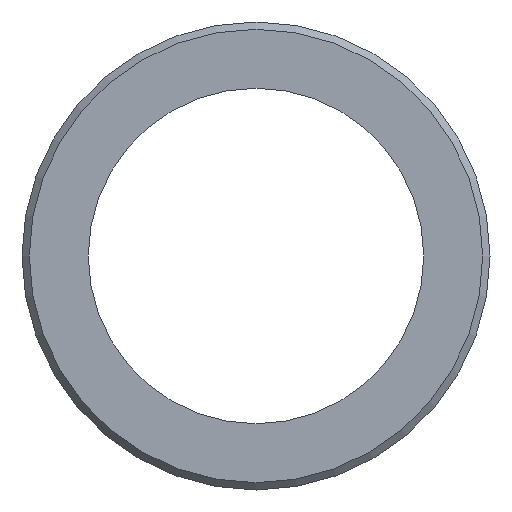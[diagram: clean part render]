
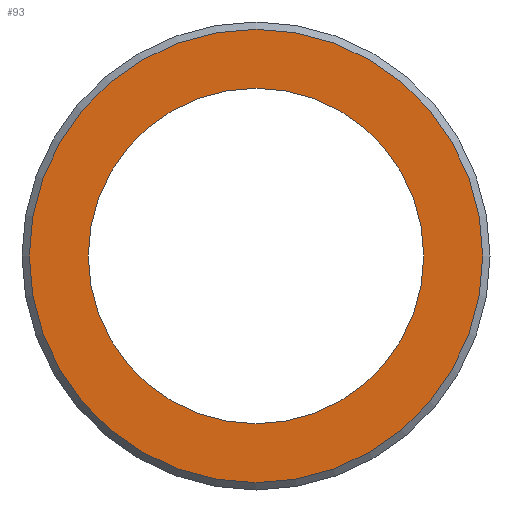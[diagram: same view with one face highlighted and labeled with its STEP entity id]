
A CAD part, front view. The second image highlights one B-rep face of the part: STEP entity #93.
In plain terms, the highlighted planar face has unit normal (0, -1, 0).
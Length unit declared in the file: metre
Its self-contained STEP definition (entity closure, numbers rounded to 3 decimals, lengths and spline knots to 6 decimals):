
#20=ORIENTED_EDGE('',*,*,#36,.T.);
#21=ORIENTED_EDGE('',*,*,#37,.F.);
#36=EDGE_CURVE('',#44,#44,#52,.T.);
#37=EDGE_CURVE('',#45,#45,#53,.T.);
#44=VERTEX_POINT('',#171);
#45=VERTEX_POINT('',#173);
#52=CIRCLE('',#117,0.005734);
#53=CIRCLE('',#118,0.00775);
#60=EDGE_LOOP('',(#20));
#61=EDGE_LOOP('',(#21));
#76=FACE_BOUND('',#60,.T.);
#77=FACE_BOUND('',#61,.T.);
#91=PLANE('',#116);
#93=ADVANCED_FACE('',(#76,#77),#91,.F.);
#116=AXIS2_PLACEMENT_3D('',#169,#137,#138);
#117=AXIS2_PLACEMENT_3D('',#170,#139,#140);
#118=AXIS2_PLACEMENT_3D('',#172,#141,#142);
#137=DIRECTION('',(0.,1.,0.));
#138=DIRECTION('',(1.,0.,0.));
#139=DIRECTION('',(0.,1.,0.));
#140=DIRECTION('',(1.,0.,0.));
#141=DIRECTION('',(0.,1.,0.));
#142=DIRECTION('',(1.,0.,0.));
#169=CARTESIAN_POINT('',(0.,0.025,-0.00775));
#170=CARTESIAN_POINT('',(0.,0.025,0.));
#171=CARTESIAN_POINT('',(0.005734,0.025,0.));
#172=CARTESIAN_POINT('',(0.,0.025,0.));
#173=CARTESIAN_POINT('',(0.00775,0.025,0.));
